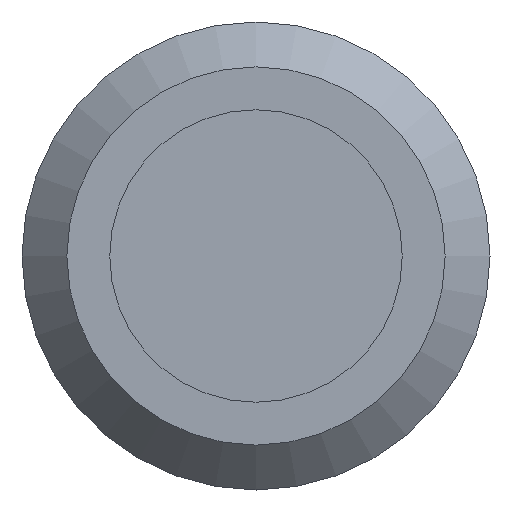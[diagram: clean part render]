
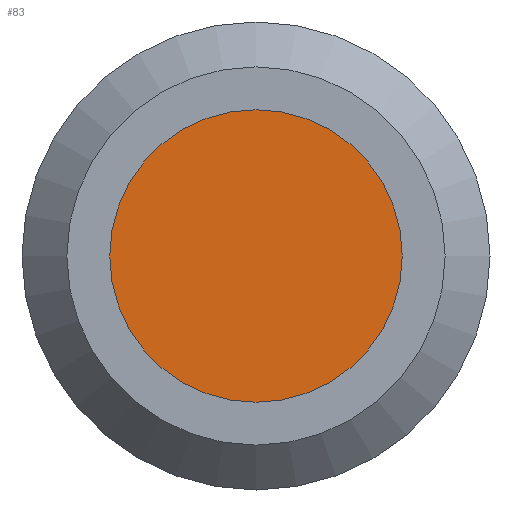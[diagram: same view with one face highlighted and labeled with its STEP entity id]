
A CAD part, front view. The second image highlights one B-rep face of the part: STEP entity #83.
In plain terms, the highlighted planar face has unit normal (0, -1, 0).
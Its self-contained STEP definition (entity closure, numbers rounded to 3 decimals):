
#83 = ADVANCED_FACE( '', ( #107 ), #108, .F. );
#107 = FACE_OUTER_BOUND( '', #141, .T. );
#108 = PLANE( '', #142 );
#141 = EDGE_LOOP( '', ( #219 ) );
#142 = AXIS2_PLACEMENT_3D( '', #220, #221, #222 );
#219 = ORIENTED_EDGE( '', *, *, #267, .T. );
#220 = CARTESIAN_POINT( '', ( 2.5, 0., 0. ) );
#221 = DIRECTION( '', ( 0., 1., 0. ) );
#222 = DIRECTION( '', ( 0., 0., 1. ) );
#267 = EDGE_CURVE( '', #304, #304, #305, .T. );
#304 = VERTEX_POINT( '', #364 );
#305 = CIRCLE( '', #365, 2.5 );
#364 = CARTESIAN_POINT( '', ( 0., 0., -2.5 ) );
#365 = AXIS2_PLACEMENT_3D( '', #395, #396, #397 );
#395 = CARTESIAN_POINT( '', ( 0., 0., 0. ) );
#396 = DIRECTION( '', ( 0., -1., 0. ) );
#397 = DIRECTION( '', ( 0., 0., -1. ) );
